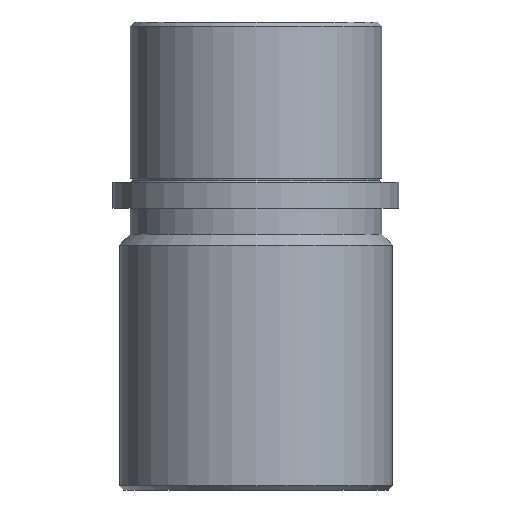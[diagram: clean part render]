
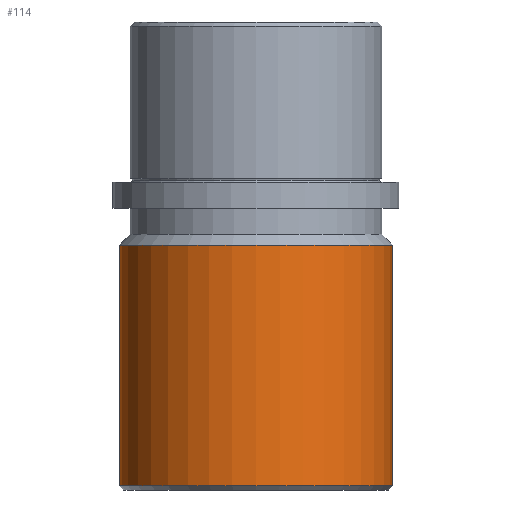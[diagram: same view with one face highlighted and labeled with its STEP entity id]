
A CAD part, front view. The second image highlights one B-rep face of the part: STEP entity #114.
In plain terms, the highlighted cylindrical face has radius 31.5 mm (diameter 63 mm), a partial arc.
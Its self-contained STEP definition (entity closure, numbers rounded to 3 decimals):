
#31 = CYLINDRICAL_SURFACE ( 'NONE', #636, 31.5 ) ;
#52 = ORIENTED_EDGE ( 'NONE', *, *, #479, .F. ) ;
#53 = CARTESIAN_POINT ( 'NONE',  ( 31.5, 0., -51.5 ) ) ;
#86 = ORIENTED_EDGE ( 'NONE', *, *, #476, .F. ) ;
#91 = CIRCLE ( 'NONE', #137, 31.5 ) ;
#114 = ADVANCED_FACE ( 'NONE', ( #1003 ), #31, .T. ) ;
#120 = VERTEX_POINT ( 'NONE', #767 ) ;
#137 = AXIS2_PLACEMENT_3D ( 'NONE', #250, #889, #388 ) ;
#147 = CARTESIAN_POINT ( 'NONE',  ( -31.5, 0., -107. ) ) ;
#207 = DIRECTION ( 'NONE',  ( 0., 0., 1. ) ) ;
#250 = CARTESIAN_POINT ( 'NONE',  ( 0., 0., -51.5 ) ) ;
#306 = ORIENTED_EDGE ( 'NONE', *, *, #620, .T. ) ;
#314 = DIRECTION ( 'NONE',  ( 0., 0., 1. ) ) ;
#383 = ORIENTED_EDGE ( 'NONE', *, *, #1064, .T. ) ;
#388 = DIRECTION ( 'NONE',  ( 1., 0., 0. ) ) ;
#432 = EDGE_LOOP ( 'NONE', ( #86, #306, #383, #52 ) ) ;
#473 = DIRECTION ( 'NONE',  ( 0., 0., 1. ) ) ;
#476 = EDGE_CURVE ( 'NONE', #521, #120, #573, .T. ) ;
#479 = EDGE_CURVE ( 'NONE', #120, #708, #91, .T. ) ;
#507 = DIRECTION ( 'NONE',  ( 1., 0., 0. ) ) ;
#512 = CARTESIAN_POINT ( 'NONE',  ( 0., 0., 0. ) ) ;
#521 = VERTEX_POINT ( 'NONE', #147 ) ;
#573 = LINE ( 'NONE', #727, #957 ) ;
#620 = EDGE_CURVE ( 'NONE', #521, #629, #700, .T. ) ;
#629 = VERTEX_POINT ( 'NONE', #637 ) ;
#636 = AXIS2_PLACEMENT_3D ( 'NONE', #512, #207, #1025 ) ;
#637 = CARTESIAN_POINT ( 'NONE',  ( 31.5, 0., -107. ) ) ;
#676 = DIRECTION ( 'NONE',  ( 0., 0., 1. ) ) ;
#700 = CIRCLE ( 'NONE', #739, 31.5 ) ;
#708 = VERTEX_POINT ( 'NONE', #53 ) ;
#727 = CARTESIAN_POINT ( 'NONE',  ( -31.5, 0., 0. ) ) ;
#739 = AXIS2_PLACEMENT_3D ( 'NONE', #1054, #473, #507 ) ;
#756 = CARTESIAN_POINT ( 'NONE',  ( 31.5, 0., 0. ) ) ;
#767 = CARTESIAN_POINT ( 'NONE',  ( -31.5, 0., -51.5 ) ) ;
#877 = VECTOR ( 'NONE', #676, 1000. ) ;
#889 = DIRECTION ( 'NONE',  ( 0., 0., 1. ) ) ;
#957 = VECTOR ( 'NONE', #314, 1000. ) ;
#1003 = FACE_OUTER_BOUND ( 'NONE', #432, .T. ) ;
#1025 = DIRECTION ( 'NONE',  ( 1., 0., 0. ) ) ;
#1054 = CARTESIAN_POINT ( 'NONE',  ( 0., 0., -107. ) ) ;
#1064 = EDGE_CURVE ( 'NONE', #629, #708, #1085, .T. ) ;
#1085 = LINE ( 'NONE', #756, #877 ) ;
